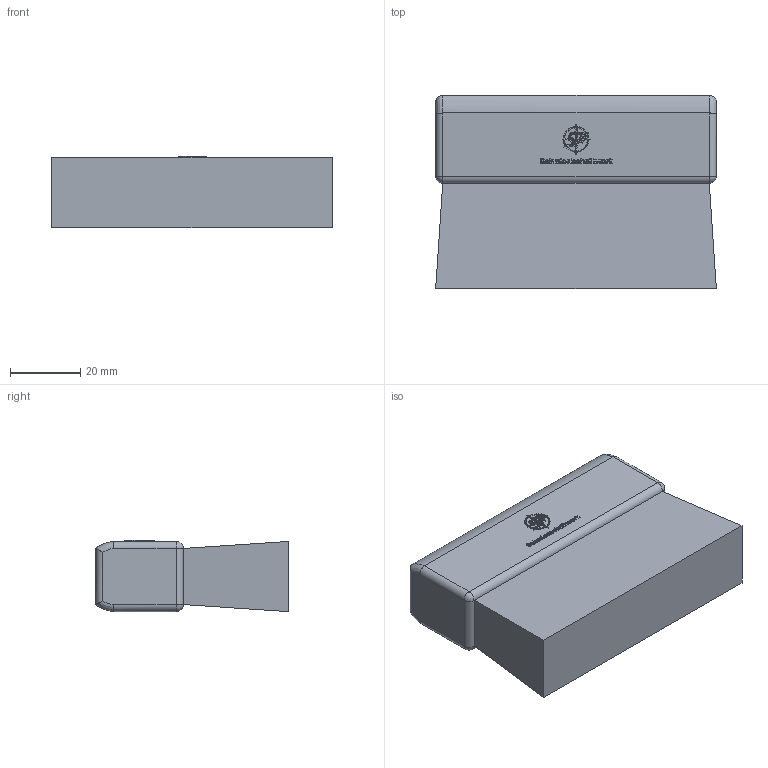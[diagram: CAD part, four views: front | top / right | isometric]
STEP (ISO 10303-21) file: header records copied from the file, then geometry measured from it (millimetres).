
FILE_DESCRIPTION (( 'STEP AP203' ), '1' );
FILE_NAME ('012_5080_0130_50_Flach_Schmierpinsel.STEP', '2025-06-16T09:44:54', ( '' ), ( '' ), 'SwSTEP 2.0', 'SolidWorks 2022', '' );
FILE_SCHEMA (( 'CONFIG_CONTROL_DESIGN' ));
Length unit declared in the file: millimetre
Products named in the file (3): STW_LOGO; 012 5038 0130 80_Flach_Schmierpinsel; 012_5080_0130_50_Flach_Schmierpinsel
Assembly tree (2 placements, depth 2):
  012_5080_0130_50_Flach_Schmierpinsel
    012 5038 0130 80_Flach_Schmierpinsel
    STW_LOGO
Bounding box: 80 x 55 x 20.3 mm (x, y, z)
Volume: 79304.3 mm3; surface area: 14964.7 mm2
Topology: 17 solids, 17 shells, 450 faces, 1153 edges, 757 vertices
Faces by surface type: plane 253, bspline 105, cylinder 85, sphere 4, cone 3
Full cylindrical faces by diameter (mm): 8 x1, 8.8 x7
Entity records: 20488 total; most frequent: CARTESIAN_POINT 10119, ORIENTED_EDGE 2248, DIRECTION 1734, EDGE_CURVE 1124, LINE 750, VECTOR 750, VERTEX_POINT 742, AXIS2_PLACEMENT_3D 492
